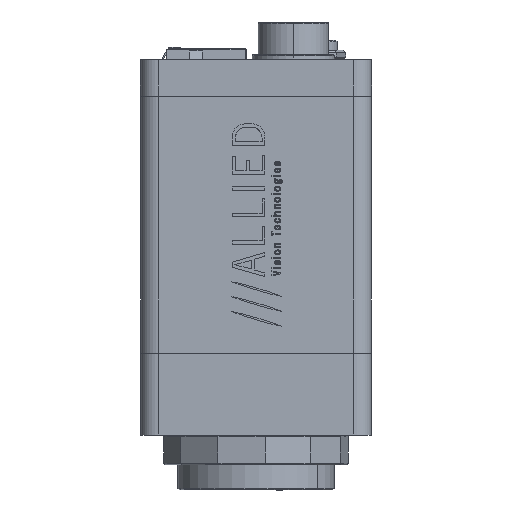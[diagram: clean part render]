
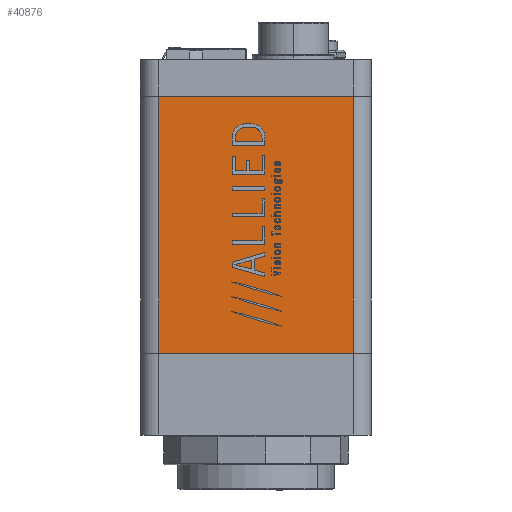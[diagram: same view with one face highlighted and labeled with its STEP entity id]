
A CAD part, left-side view. The second image highlights one B-rep face of the part: STEP entity #40876.
In plain terms, the highlighted planar face has unit normal (-1, 0, 0).
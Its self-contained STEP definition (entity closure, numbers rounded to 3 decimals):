
#765 = VECTOR ( 'NONE', #84010, 1000. ) ;
#2864 = CARTESIAN_POINT ( 'NONE',  ( -25.714, -16.558, 0. ) ) ;
#3188 = ORIENTED_EDGE ( 'NONE', *, *, #201127, .F. ) ;
#22773 = AXIS2_PLACEMENT_3D ( 'NONE', #178008, #176791, #176135 ) ;
#22893 = LINE ( 'NONE', #135903, #184084 ) ;
#24593 = EDGE_LOOP ( 'NONE', ( #33900, #33728, #146720, #3188 ) ) ;
#26818 = CARTESIAN_POINT ( 'NONE',  ( -25.714, -16.558, 43.65 ) ) ;
#29175 = EDGE_CURVE ( 'NONE', #55673, #86537, #84946, .T. ) ;
#33728 = ORIENTED_EDGE ( 'NONE', *, *, #64066, .F. ) ;
#33900 = ORIENTED_EDGE ( 'NONE', *, *, #87359, .F. ) ;
#40876 = ADVANCED_FACE ( 'NONE', ( #54977 ), #184630, .T. ) ;
#42722 = LINE ( 'NONE', #84186, #765 ) ;
#52786 = VERTEX_POINT ( 'NONE', #133916 ) ;
#54977 = FACE_OUTER_BOUND ( 'NONE', #24593, .T. ) ;
#55673 = VERTEX_POINT ( 'NONE', #2864 ) ;
#64066 = EDGE_CURVE ( 'NONE', #55673, #52786, #42722, .T. ) ;
#84010 = DIRECTION ( 'NONE',  ( 0., 1., 0. ) ) ;
#84186 = CARTESIAN_POINT ( 'NONE',  ( -25.714, -16.558, 0. ) ) ;
#84946 = LINE ( 'NONE', #200005, #167959 ) ;
#86537 = VERTEX_POINT ( 'NONE', #26818 ) ;
#87359 = EDGE_CURVE ( 'NONE', #52786, #190177, #22893, .T. ) ;
#114502 = VECTOR ( 'NONE', #126304, 1000. ) ;
#118305 = CARTESIAN_POINT ( 'NONE',  ( -25.714, 16.558, 43.65 ) ) ;
#126304 = DIRECTION ( 'NONE',  ( 0., -1., 0. ) ) ;
#133916 = CARTESIAN_POINT ( 'NONE',  ( -25.714, 16.558, 0. ) ) ;
#135471 = DIRECTION ( 'NONE',  ( 0., 0., 1. ) ) ;
#135903 = CARTESIAN_POINT ( 'NONE',  ( -25.714, 16.558, 108.336 ) ) ;
#146720 = ORIENTED_EDGE ( 'NONE', *, *, #29175, .T. ) ;
#156115 = LINE ( 'NONE', #200523, #114502 ) ;
#166542 = DIRECTION ( 'NONE',  ( 0., 0., 1. ) ) ;
#167959 = VECTOR ( 'NONE', #166542, 1000. ) ;
#176135 = DIRECTION ( 'NONE',  ( 0., 0., 1. ) ) ;
#176791 = DIRECTION ( 'NONE',  ( -1., 0., 0. ) ) ;
#178008 = CARTESIAN_POINT ( 'NONE',  ( -25.714, 16.558, 108.336 ) ) ;
#184084 = VECTOR ( 'NONE', #135471, 1000. ) ;
#184630 = PLANE ( 'NONE',  #22773 ) ;
#190177 = VERTEX_POINT ( 'NONE', #118305 ) ;
#200005 = CARTESIAN_POINT ( 'NONE',  ( -25.714, -16.558, 108.336 ) ) ;
#200523 = CARTESIAN_POINT ( 'NONE',  ( -25.714, 16.558, 43.65 ) ) ;
#201127 = EDGE_CURVE ( 'NONE', #190177, #86537, #156115, .T. ) ;
